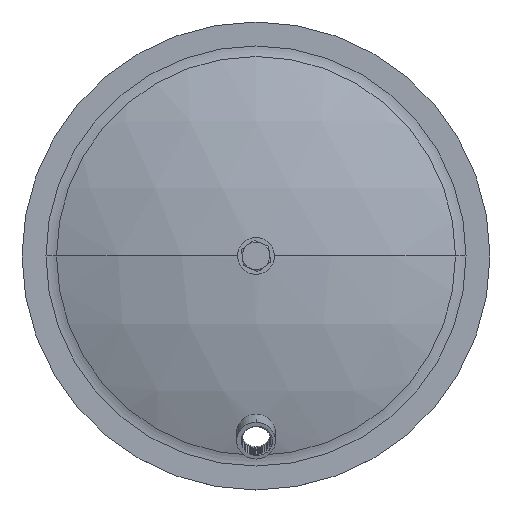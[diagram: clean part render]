
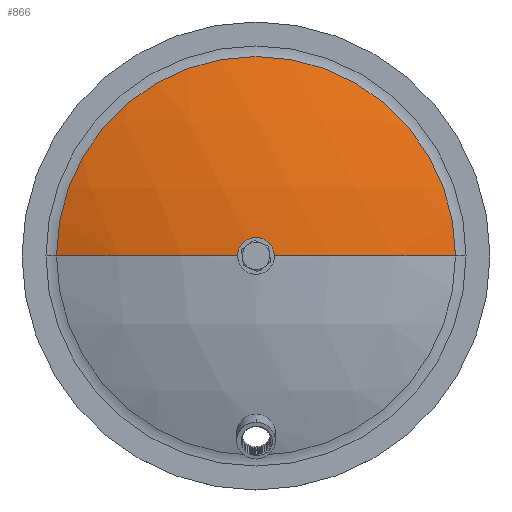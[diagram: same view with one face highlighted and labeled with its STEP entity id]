
A CAD part, top view. The second image highlights one B-rep face of the part: STEP entity #866.
In plain terms, the highlighted spherical face has radius 479.586 mm.
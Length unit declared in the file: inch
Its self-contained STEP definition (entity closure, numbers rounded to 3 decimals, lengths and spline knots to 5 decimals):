
#45 = DIRECTION ( 'NONE',  ( 0., 0., 1. ) ) ;
#66 = DIRECTION ( 'NONE',  ( -1., 0., 0. ) ) ;
#76 = CARTESIAN_POINT ( 'NONE',  ( -1.4913, 0.52312, -0.07122 ) ) ;
#79 = ORIENTED_EDGE ( 'NONE', *, *, #1923, .T. ) ;
#486 = CARTESIAN_POINT ( 'NONE',  ( -1.8288, 0.52312, 1.18003 ) ) ;
#570 = EDGE_LOOP ( 'NONE', ( #3642, #2466, #79, #3639 ) ) ;
#632 = VERTEX_POINT ( 'NONE', #486 ) ;
#866 = ADVANCED_FACE ( 'NONE', ( #3000 ), #2964, .T. ) ;
#1362 = VERTEX_POINT ( 'NONE', #2705 ) ;
#1419 = CARTESIAN_POINT ( 'NONE',  ( -8.25823, 0.52312, -0.07122 ) ) ;
#1494 = VERTEX_POINT ( 'NONE', #2295 ) ;
#1740 = VERTEX_POINT ( 'NONE', #1419 ) ;
#1892 = EDGE_CURVE ( 'NONE', #1362, #1740, #3140, .T. ) ;
#1914 = EDGE_CURVE ( 'NONE', #1740, #632, #2619, .T. ) ;
#1920 = EDGE_CURVE ( 'NONE', #1362, #1494, #3482, .T. ) ;
#1923 = EDGE_CURVE ( 'NONE', #632, #1494, #2582, .T. ) ;
#2295 = CARTESIAN_POINT ( 'NONE',  ( -1.1538, 0.52312, 1.18003 ) ) ;
#2375 = DIRECTION ( 'NONE',  ( 1., 0., 0. ) ) ;
#2386 = CARTESIAN_POINT ( 'NONE',  ( -1.4913, 0.52312, -17.69829 ) ) ;
#2394 = DIRECTION ( 'NONE',  ( 0., 1., 0. ) ) ;
#2466 = ORIENTED_EDGE ( 'NONE', *, *, #1914, .T. ) ;
#2582 = CIRCLE ( 'NONE', #3291, 0.3375 ) ;
#2619 = CIRCLE ( 'NONE', #3293, 18.88133 ) ;
#2705 = CARTESIAN_POINT ( 'NONE',  ( 5.27564, 0.52312, -0.07122 ) ) ;
#2964 = SPHERICAL_SURFACE ( 'NONE', #3588, 18.88133 ) ;
#3000 = FACE_OUTER_BOUND ( 'NONE', #570, .T. ) ;
#3140 = CIRCLE ( 'NONE', #3302, 6.76694 ) ;
#3291 = AXIS2_PLACEMENT_3D ( 'NONE', #3593, #3592, #3589 ) ;
#3292 = AXIS2_PLACEMENT_3D ( 'NONE', #3610, #3609, #3604 ) ;
#3293 = AXIS2_PLACEMENT_3D ( 'NONE', #3646, #3640, #3634 ) ;
#3302 = AXIS2_PLACEMENT_3D ( 'NONE', #76, #45, #66 ) ;
#3482 = CIRCLE ( 'NONE', #3292, 18.88133 ) ;
#3588 = AXIS2_PLACEMENT_3D ( 'NONE', #2386, #2394, #2375 ) ;
#3589 = DIRECTION ( 'NONE',  ( -1., 0., 0. ) ) ;
#3592 = DIRECTION ( 'NONE',  ( 0., 0., -1. ) ) ;
#3593 = CARTESIAN_POINT ( 'NONE',  ( -1.4913, 0.52312, 1.18003 ) ) ;
#3604 = DIRECTION ( 'NONE',  ( 0., 0., -1. ) ) ;
#3609 = DIRECTION ( 'NONE',  ( 0., -1., 0. ) ) ;
#3610 = CARTESIAN_POINT ( 'NONE',  ( -1.4913, 0.52312, -17.69829 ) ) ;
#3634 = DIRECTION ( 'NONE',  ( -1., 0., 0. ) ) ;
#3639 = ORIENTED_EDGE ( 'NONE', *, *, #1920, .F. ) ;
#3640 = DIRECTION ( 'NONE',  ( 0., 1., 0. ) ) ;
#3642 = ORIENTED_EDGE ( 'NONE', *, *, #1892, .T. ) ;
#3646 = CARTESIAN_POINT ( 'NONE',  ( -1.4913, 0.52312, -17.69829 ) ) ;
